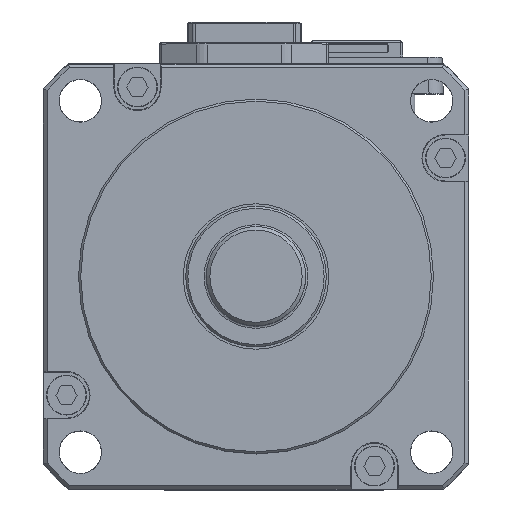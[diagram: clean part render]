
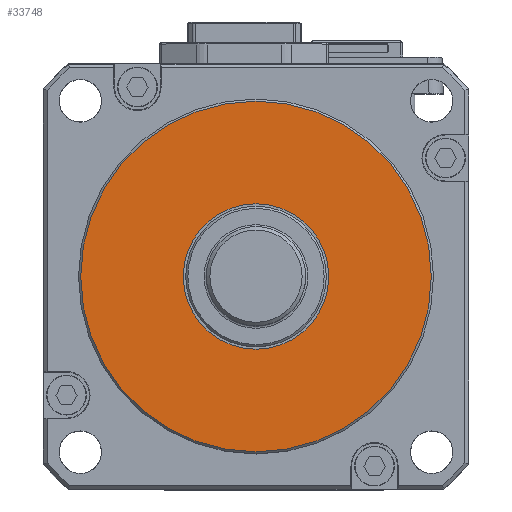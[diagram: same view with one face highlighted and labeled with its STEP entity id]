
A CAD part, top view. The second image highlights one B-rep face of the part: STEP entity #33748.
In plain terms, the highlighted planar face has unit normal (0, 0, 1).
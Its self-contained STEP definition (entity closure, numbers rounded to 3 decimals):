
#4893 = EDGE_LOOP ( 'NONE', ( #43953 ) ) ;
#6242 = DIRECTION ( 'NONE',  ( 1., 0., 0. ) ) ;
#6470 = EDGE_CURVE ( 'NONE', #26685, #26685, #41924, .T. ) ;
#7853 = FACE_OUTER_BOUND ( 'NONE', #39146, .T. ) ;
#11029 = CARTESIAN_POINT ( 'NONE',  ( 0., 0., 10. ) ) ;
#13272 = DIRECTION ( 'NONE',  ( 0., 0., 1. ) ) ;
#17392 = PLANE ( 'NONE',  #43227 ) ;
#19935 = CIRCLE ( 'NONE', #32065, 24.7 ) ;
#22723 = EDGE_CURVE ( 'NONE', #33666, #33666, #19935, .T. ) ;
#23497 = DIRECTION ( 'NONE',  ( 0., 0., 1. ) ) ;
#23606 = ORIENTED_EDGE ( 'NONE', *, *, #22723, .T. ) ;
#26685 = VERTEX_POINT ( 'NONE', #51500 ) ;
#31590 = FACE_BOUND ( 'NONE', #4893, .T. ) ;
#32065 = AXIS2_PLACEMENT_3D ( 'NONE', #11029, #49714, #6242 ) ;
#32645 = CARTESIAN_POINT ( 'NONE',  ( 0., 0., 10. ) ) ;
#33666 = VERTEX_POINT ( 'NONE', #38779 ) ;
#33748 = ADVANCED_FACE ( 'NONE', ( #7853, #31590 ), #17392, .T. ) ;
#36679 = CARTESIAN_POINT ( 'NONE',  ( 0., 0., 10. ) ) ;
#38051 = DIRECTION ( 'NONE',  ( 1., 0., 0. ) ) ;
#38779 = CARTESIAN_POINT ( 'NONE',  ( 24.7, 0., 10. ) ) ;
#39146 = EDGE_LOOP ( 'NONE', ( #23606 ) ) ;
#41924 = CIRCLE ( 'NONE', #49986, 10.25 ) ;
#43227 = AXIS2_PLACEMENT_3D ( 'NONE', #36679, #13272, #57014 ) ;
#43953 = ORIENTED_EDGE ( 'NONE', *, *, #6470, .F. ) ;
#49714 = DIRECTION ( 'NONE',  ( 0., 0., 1. ) ) ;
#49986 = AXIS2_PLACEMENT_3D ( 'NONE', #32645, #23497, #38051 ) ;
#51500 = CARTESIAN_POINT ( 'NONE',  ( 10.25, 0., 10. ) ) ;
#57014 = DIRECTION ( 'NONE',  ( 1., 0., 0. ) ) ;
